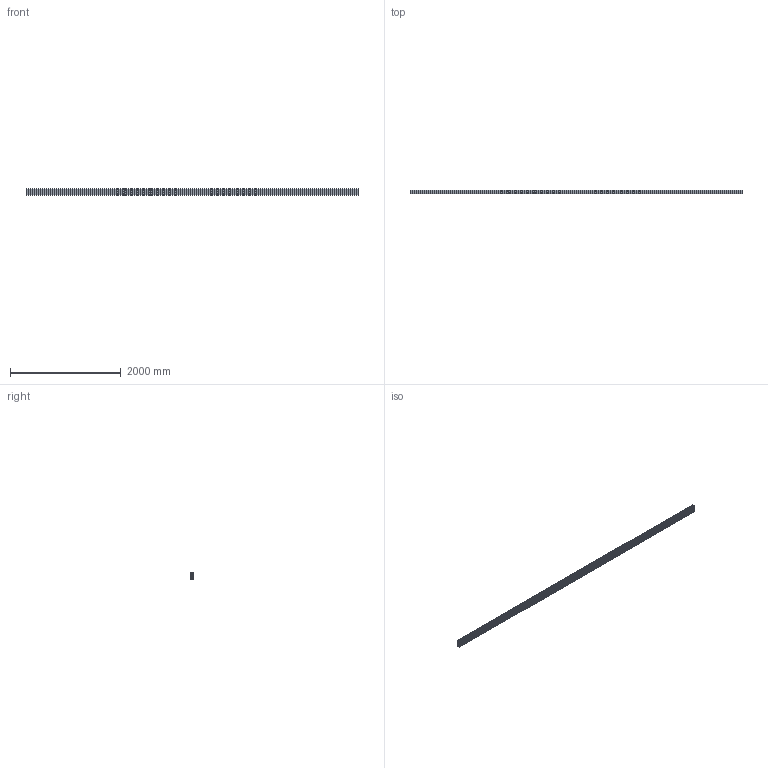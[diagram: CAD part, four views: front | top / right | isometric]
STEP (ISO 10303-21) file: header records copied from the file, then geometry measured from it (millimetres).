
FILE_DESCRIPTION (( 'STEP AP203' ), '1' );
FILE_NAME ('20205800_Profil 6 60x120L_0.step', '2021-06-19T07:52:17', ( '' ), ( '' ), 'SwSTEP 2.0', 'SolidWorks 2021', '' );
FILE_SCHEMA (( 'CONFIG_CONTROL_DESIGN' ));
Length unit declared in the file: millimetre
Products named in the file (1): 20205800_Profil 6 60x120L_0
Bounding box: 6000 x 60 x 120 mm (x, y, z)
Volume: 11266051.1 mm3; surface area: 8932311.8 mm2
Topology: 1 solids, 1 shells, 547 faces, 1635 edges, 1090 vertices
Faces by surface type: cylinder 281, plane 266
Entity records: 18712 total; most frequent: DIRECTION 3293, CARTESIAN_POINT 3273, ORIENTED_EDGE 3270, EDGE_CURVE 1635, AXIS2_PLACEMENT_3D 1110, VERTEX_POINT 1090, VECTOR 1073, LINE 1073
